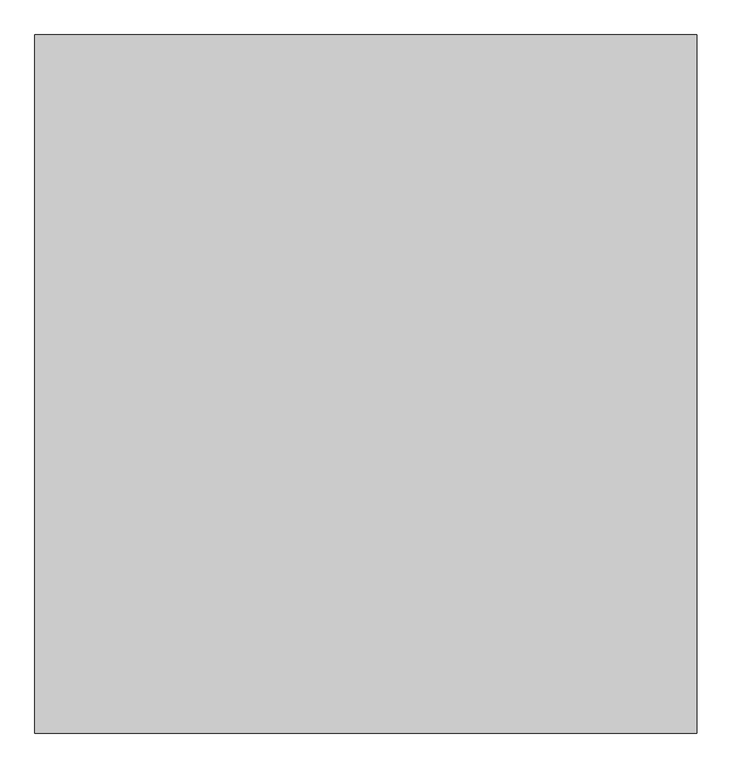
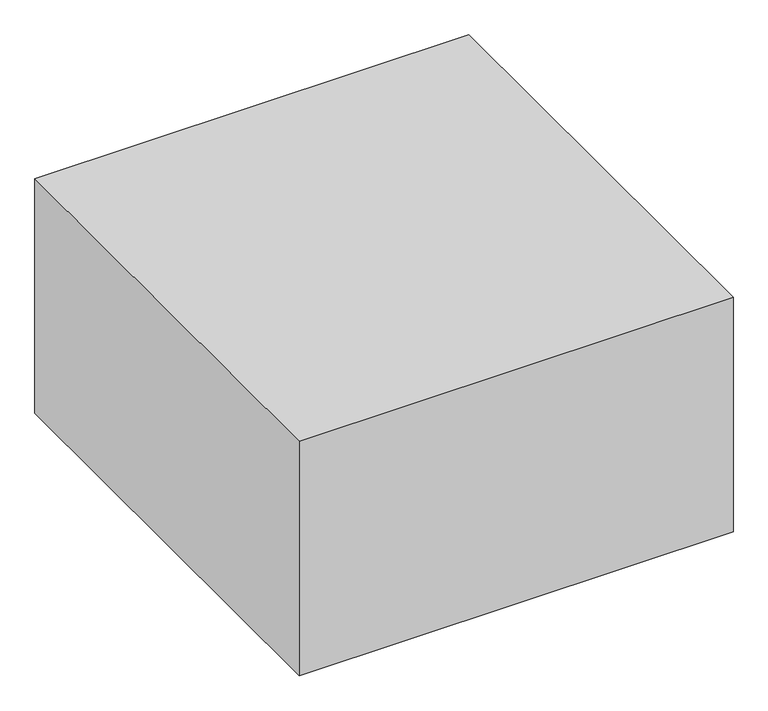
"""IFC4 building model written with IfcOpenShell, lengths in millimetres: proxy geometry."""

import ifcopenshell
import ifcopenshell.guid

model = None  # the IFC model being written
_history = None  # IfcOwnerHistory: only IFC2X3 demands one
_inside = {}  # id of a spatial element -> (the spatial element, [elements in it])
_under = {}  # id of a project, library or spatial element -> (it, [spatial elements below it])
_declared = {}  # id of a project -> (the project, [libraries it declares])
_typed = {}  # id of a type object -> (the type object, [elements of that type])
_made_of = {}  # id of a material, layer set ... -> (it, [elements and type objects made of it])


def new_model(schema):
    """Start an empty IFC model of exactly this schema.

    Asked for "IFC4X3", IfcOpenShell would pick the latest addendum, in which some entities
    have other attributes; the version numbers below select the first issue.
    IFC2X3 requires an IfcOwnerHistory on every rooted entity: one is made here for all.
    """
    global model, _history
    if schema == "IFC4X3":
        model = ifcopenshell.file(schema_version=(4, 3, 0, 0))
    else:
        model = ifcopenshell.file(schema=schema)
    _inside.clear()
    _under.clear()
    _declared.clear()
    _typed.clear()
    _made_of.clear()
    _history = None
    if model.schema == "IFC2X3":
        org = make("IfcOrganization", Name="unknown")
        user = make(
            "IfcPersonAndOrganization",
            ThePerson=make("IfcPerson", FamilyName="unknown"),
            TheOrganization=org,
        )
        app = make(
            "IfcApplication",
            ApplicationDeveloper=org,
            Version="unknown",
            ApplicationFullName="unknown",
            ApplicationIdentifier="unknown",
        )
        _history = make(
            "IfcOwnerHistory",
            OwningUser=user,
            OwningApplication=app,
            ChangeAction="ADDED",
            CreationDate=0,
        )
    return model


def make(cls, **values):
    """One entity of the class cls with the attributes given. An attribute that is None is left unset."""
    return model.create_entity(
        cls, **{name: value for name, value in values.items() if value is not None}
    )


def rooted(cls, **values):
    """An entity with a GlobalId (a new one), such as an element, a storey or a relation."""
    return make(cls, GlobalId=ifcopenshell.guid.new(), OwnerHistory=_history, **values)


def si_unit(unit_type, name, prefix=None):
    """IfcSIUnit, for example si_unit("LENGTHUNIT", "METRE", prefix="MILLI")."""
    return make("IfcSIUnit", UnitType=unit_type, Prefix=prefix, Name=name)


def assignment(units):
    """IfcUnitAssignment: the units of a project."""
    return None if units is None else make("IfcUnitAssignment", Units=units)


def point(xyz):
    """IfcCartesianPoint."""
    return None if xyz is None else make("IfcCartesianPoint", Coordinates=xyz)


def direction(xyz):
    """IfcDirection."""
    return None if xyz is None else make("IfcDirection", DirectionRatios=xyz)


def frame(location, z_axis=None, x_axis=None):
    """IfcAxis2Placement3D, a coordinate frame: its origin and axes. An axis left out is left unset."""
    return make(
        "IfcAxis2Placement3D",
        Location=point(location),
        Axis=direction(z_axis),
        RefDirection=direction(x_axis),
    )


def origin():
    """The frame at (0, 0, 0) with its axes left unset."""
    return frame((0.0, 0.0, 0.0))


def origin_with_axes():
    """The frame at (0, 0, 0) with the z axis (0, 0, 1) and the x axis (1, 0, 0) written out."""
    return frame((0.0, 0.0, 0.0), z_axis=(0.0, 0.0, 1.0), x_axis=(1.0, 0.0, 0.0))


def place(relative_to, where):
    """IfcLocalPlacement: puts the frame where relative to a parent placement (None: the world)."""
    return make(
        "IfcLocalPlacement", PlacementRelTo=relative_to, RelativePlacement=where
    )


def context(
    kind, dimensions, precision=None, world=None, true_north=None, identifier=None
):
    """IfcGeometricRepresentationContext, for example the 3D "Model" context."""
    return make(
        "IfcGeometricRepresentationContext",
        ContextIdentifier=identifier,
        ContextType=kind,
        CoordinateSpaceDimension=dimensions,
        Precision=precision,
        WorldCoordinateSystem=world,
        TrueNorth=true_north,
    )


def project(units=None, contexts=None):
    """IfcProject with its units and contexts."""
    return rooted(
        "IfcProject",
        Name="project",
        RepresentationContexts=contexts,
        UnitsInContext=assignment(units),
    )


def spatial(cls, under=None, at=None, **own):
    """A site, building, storey or space (cls), placed at a placement, below another one or the project."""
    s = rooted(cls, ObjectPlacement=at, **own)
    if under is not None:
        _under.setdefault(under.id(), (under, []))[1].append(s)
    return s


def polyline(points):
    """IfcPolyline through the points."""
    return make("IfcPolyline", Points=[point(p) for p in points])


def outline(outer, holes=None, kind="AREA"):
    """IfcArbitraryClosedProfileDef: a profile drawn as a closed curve; with holes, ...WithVoids."""
    if holes is None:
        return make("IfcArbitraryClosedProfileDef", ProfileType=kind, OuterCurve=outer)
    return make(
        "IfcArbitraryProfileDefWithVoids",
        ProfileType=kind,
        OuterCurve=outer,
        InnerCurves=holes,
    )


def extrude(swept, where, along, depth):
    """IfcExtrudedAreaSolid: the profile swept, set in the frame where, extruded along a direction by depth."""
    return make(
        "IfcExtrudedAreaSolid",
        SweptArea=swept,
        Position=where,
        ExtrudedDirection=direction(along),
        Depth=depth,
    )


def shape(context_of_items, identifier, shape_type, items):
    """IfcShapeRepresentation: the items that make up one representation, for example the "Body"."""
    return make(
        "IfcShapeRepresentation",
        ContextOfItems=context_of_items,
        RepresentationIdentifier=identifier,
        RepresentationType=shape_type,
        Items=items,
    )


def source(mapping_origin, context_of_items, identifier, shape_type, items):
    """IfcRepresentationMap: a shape defined once, which mapped items show again and again."""
    return make(
        "IfcRepresentationMap",
        MappingOrigin=mapping_origin,
        MappedRepresentation=shape(context_of_items, identifier, shape_type, items),
    )


def transform(
    local_origin,
    x_axis=None,
    y_axis=None,
    z_axis=None,
    scale=None,
    scale2=None,
    scale3=None,
    uniform=True,
):
    """IfcCartesianTransformationOperator3D, or its non-uniform kind. x_axis, y_axis, z_axis: its Axis1, 2, 3."""
    if uniform:
        return make(
            "IfcCartesianTransformationOperator3D",
            Axis1=direction(x_axis),
            Axis2=direction(y_axis),
            LocalOrigin=point(local_origin),
            Scale=scale,
            Axis3=direction(z_axis),
        )
    return make(
        "IfcCartesianTransformationOperator3DnonUniform",
        Axis1=direction(x_axis),
        Axis2=direction(y_axis),
        LocalOrigin=point(local_origin),
        Scale=scale,
        Axis3=direction(z_axis),
        Scale2=scale2,
        Scale3=scale3,
    )


def mapped(mapping_source, mapping_target):
    """IfcMappedItem: shows the shape of a source again, moved by a transform."""
    return make(
        "IfcMappedItem", MappingSource=mapping_source, MappingTarget=mapping_target
    )


def made_of(thing, what):
    """Note that an element or type object is made of a material, layer set ...; save() writes the relation."""
    if what is not None:
        _made_of.setdefault(what.id(), (what, []))[1].append(thing)
    return thing


def element(
    cls,
    number,
    at=None,
    inside=None,
    cuts=None,
    type_object=None,
    material=None,
    context=None,
    identifier="Body",
    shape_type=None,
    held_by="IfcProductDefinitionShape",
    body=None,
    shapes=None,
    **own,
):
    """One element of the class cls, such as IfcWall. Its Tag is "e" and its number.

    at: its placement. inside: the storey or other place that contains it. cuts: it is an
    opening in that element (IfcRelVoidsElement). A single representation is given by context,
    identifier, shape_type and body (its items); several are given by shapes. held_by: the class
    of the entity that holds the representations. save() writes the other relations.
    """
    e = rooted(cls, Tag="e%d" % number, ObjectPlacement=at, **own)
    if body is not None:
        shapes = [shape(context, identifier, shape_type, body)]
    if shapes is not None:
        e.Representation = make(held_by, Representations=shapes)
    if inside is not None:
        _inside.setdefault(inside.id(), (inside, []))[1].append(e)
    if cuts is not None:
        rooted(
            "IfcRelVoidsElement", RelatingBuildingElement=cuts, RelatedOpeningElement=e
        )
    if type_object is not None:
        _typed.setdefault(type_object.id(), (type_object, []))[1].append(e)
    return made_of(e, material)


def aggregate(whole, parts):
    """IfcRelAggregates: a whole, such as a stair, and the parts it consists of."""
    return rooted("IfcRelAggregates", RelatingObject=whole, RelatedObjects=parts)


def save(model, path):
    """Write the relations noted so far, then the file.

    IfcRelAggregates (storeys below a building ...), IfcRelContainedInSpatialStructure (elements
    in a storey), IfcRelDefinesByType, IfcRelAssociatesMaterial and IfcRelDeclares: one each for
    every whole, place, type object, material and project.
    """
    for whole, parts in _under.values():
        aggregate(whole, parts)
    for where, things in _inside.values():
        rooted(
            "IfcRelContainedInSpatialStructure",
            RelatedElements=things,
            RelatingStructure=where,
        )
    for kind, things in _typed.values():
        rooted("IfcRelDefinesByType", RelatedObjects=things, RelatingType=kind)
    for what, things in _made_of.values():
        rooted("IfcRelAssociatesMaterial", RelatedObjects=things, RelatingMaterial=what)
    for by, libraries in _declared.values():
        rooted("IfcRelDeclares", RelatingContext=by, RelatedDefinitions=libraries)
    model.write(path)


def generic_models_1c11b4fa(model_context):
    return source(origin(), model_context, "Body", "SweptSolid", [
        extrude(outline(polyline([(-101948.3455046, -23910.7903364), (-106323.1304765, -23910.7903364), (-106323.1304765, -19300.7903364), (-101948.3455046, -19300.7903364), (-101948.3455046, -23910.7903364)])), origin_with_axes(), (0.0, 0.0, 1.0), 2500.0),
    ])


if __name__ == "__main__":
    model = new_model("IFC4")
    model_context = context("Model", 3, world=origin())
    ifc_project = project(units=[si_unit("LENGTHUNIT", "METRE", prefix="MILLI")], contexts=[model_context])
    site = spatial("IfcSite", under=ifc_project)
    building = spatial("IfcBuilding", under=site)
    placement = place(None, origin())
    generic_models_shape = generic_models_1c11b4fa(model_context)
    element("IfcBuildingElementProxy", 1, Name="Generic Models", at=placement, inside=building, context=model_context, shape_type="MappedRepresentation", body=[
        mapped(generic_models_shape, transform((0.0, 0.0, 0.0), x_axis=(1.0, 0.0, 0.0), y_axis=(0.0, 1.0, 0.0), z_axis=(0.0, 0.0, 1.0))),
    ])
    save(model, "model.ifc")
